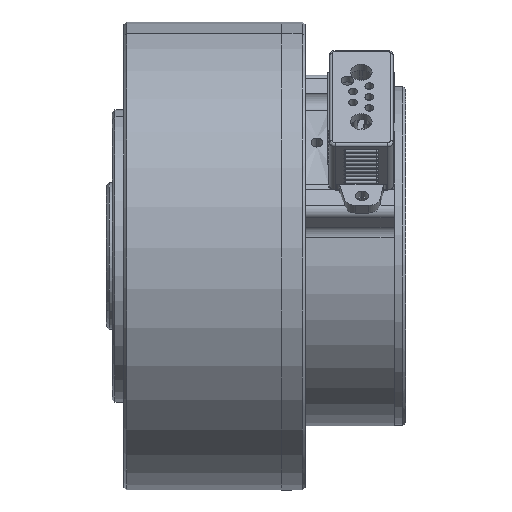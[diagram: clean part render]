
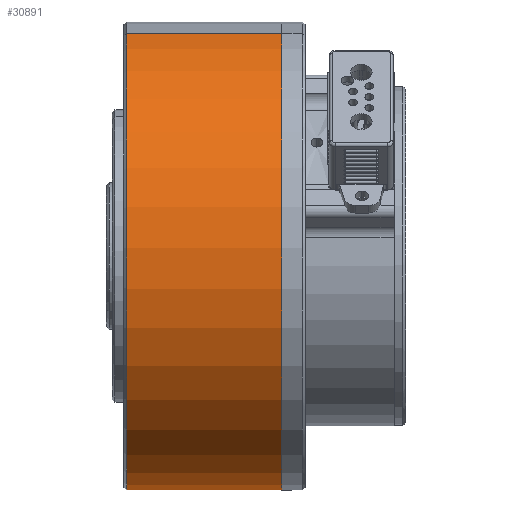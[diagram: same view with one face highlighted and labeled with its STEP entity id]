
A CAD part, left-side view. The second image highlights one B-rep face of the part: STEP entity #30891.
In plain terms, the highlighted cylindrical face has radius 40 mm (diameter 80 mm), a partial arc.
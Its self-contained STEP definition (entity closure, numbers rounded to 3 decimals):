
#428 = CIRCLE ( 'NONE', #25526, 40. ) ;
#2319 = CARTESIAN_POINT ( 'NONE',  ( 0., 2., 0. ) ) ;
#2386 = DIRECTION ( 'NONE',  ( 0., -1., 0. ) ) ;
#2399 = CARTESIAN_POINT ( 'NONE',  ( 0., 27., 40. ) ) ;
#4248 = DIRECTION ( 'NONE',  ( 0., 0., 1. ) ) ;
#6220 = DIRECTION ( 'NONE',  ( 0., 0., 1. ) ) ;
#12442 = CYLINDRICAL_SURFACE ( 'NONE', #39157, 40. ) ;
#14877 = ORIENTED_EDGE ( 'NONE', *, *, #17229, .T. ) ;
#15209 = CARTESIAN_POINT ( 'NONE',  ( 0., 2., -40. ) ) ;
#15307 = VERTEX_POINT ( 'NONE', #29535 ) ;
#16021 = DIRECTION ( 'NONE',  ( 0., -1., 0. ) ) ;
#16427 = VECTOR ( 'NONE', #2386, 1000. ) ;
#16940 = CIRCLE ( 'NONE', #34084, 40. ) ;
#17229 = EDGE_CURVE ( 'NONE', #40294, #15307, #16940, .T. ) ;
#17508 = DIRECTION ( 'NONE',  ( 0., 1., 0. ) ) ;
#19015 = CARTESIAN_POINT ( 'NONE',  ( 0., 0.5, 40. ) ) ;
#20683 = VECTOR ( 'NONE', #36960, 1000. ) ;
#21844 = ORIENTED_EDGE ( 'NONE', *, *, #32875, .F. ) ;
#22477 = CARTESIAN_POINT ( 'NONE',  ( 0., 27., -40. ) ) ;
#23876 = EDGE_CURVE ( 'NONE', #43754, #27003, #428, .T. ) ;
#25526 = AXIS2_PLACEMENT_3D ( 'NONE', #38566, #17508, #4248 ) ;
#27003 = VERTEX_POINT ( 'NONE', #22477 ) ;
#29121 = EDGE_LOOP ( 'NONE', ( #39794, #32974, #14877, #21844 ) ) ;
#29535 = CARTESIAN_POINT ( 'NONE',  ( 0., 0.5, -40. ) ) ;
#29678 = DIRECTION ( 'NONE',  ( 0., 0., -1. ) ) ;
#30017 = CARTESIAN_POINT ( 'NONE',  ( 0., 2., 40. ) ) ;
#30891 = ADVANCED_FACE ( 'NONE', ( #33468 ), #12442, .T. ) ;
#32522 = EDGE_CURVE ( 'NONE', #43754, #40294, #43716, .T. ) ;
#32685 = CARTESIAN_POINT ( 'NONE',  ( 0., 0.5, 0. ) ) ;
#32875 = EDGE_CURVE ( 'NONE', #27003, #15307, #33108, .T. ) ;
#32974 = ORIENTED_EDGE ( 'NONE', *, *, #32522, .T. ) ;
#33108 = LINE ( 'NONE', #15209, #16427 ) ;
#33468 = FACE_OUTER_BOUND ( 'NONE', #29121, .T. ) ;
#34084 = AXIS2_PLACEMENT_3D ( 'NONE', #32685, #43258, #6220 ) ;
#36960 = DIRECTION ( 'NONE',  ( 0., -1., 0. ) ) ;
#38566 = CARTESIAN_POINT ( 'NONE',  ( 0., 27., 0. ) ) ;
#39157 = AXIS2_PLACEMENT_3D ( 'NONE', #2319, #16021, #29678 ) ;
#39794 = ORIENTED_EDGE ( 'NONE', *, *, #23876, .F. ) ;
#40294 = VERTEX_POINT ( 'NONE', #19015 ) ;
#43258 = DIRECTION ( 'NONE',  ( 0., 1., 0. ) ) ;
#43716 = LINE ( 'NONE', #30017, #20683 ) ;
#43754 = VERTEX_POINT ( 'NONE', #2399 ) ;
